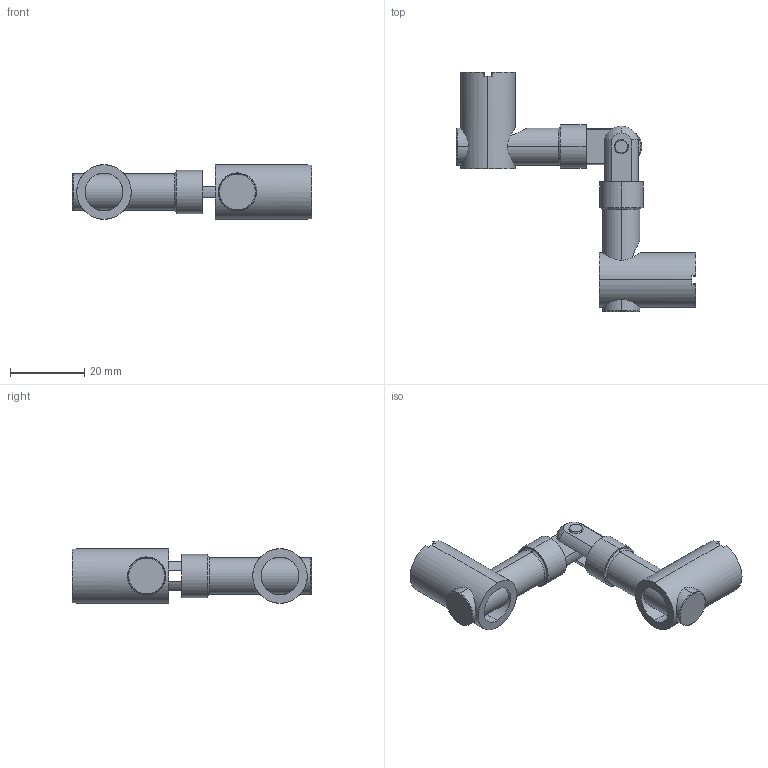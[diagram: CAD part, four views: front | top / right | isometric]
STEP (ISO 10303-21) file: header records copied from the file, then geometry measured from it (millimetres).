
FILE_DESCRIPTION (( 'STEP AP214' ), '1' );
FILE_NAME ('SNSD.30.50.16 Áûñòðîçàæèìíîé êîííåêòîð 85-180 ãðàäóñîâ, ïàç 10(Ñ17).STEP', '2014-11-19T08:45:18', ( 'XTreme.ws' ), ( 'XTreme.ws' ), 'SwSTEP 2.0', 'SolidWorks 2014', '' );
FILE_SCHEMA (( 'AUTOMOTIVE_DESIGN' ));
Length unit declared in the file: millimetre
Products named in the file (5): SNSD.30.50.31 ﾂ竟ﾑ16C17_00; SNSD.30.50.30 Ñòàêàí_Ñ16C17_00; SNSD.30.50.29 ﾏ琿褻_ﾑ16C17_00; SNSD.30.50.28 ﾏ琿褻_ﾑ16C17_00; SNSD.30.50.16 Áûñòðîçàæèìíîé êîííåêòîð 85-180 ãðàäóñîâ, ïàç 10(Ñ17)
Assembly tree (6 placements, depth 2):
  SNSD.30.50.16 Áûñòðîçàæèìíîé êîííåêòîð 85-180 ãðàäóñîâ, ïàç 10(Ñ17)
    SNSD.30.50.28 ﾏ琿褻_ﾑ16C17_00
    SNSD.30.50.29 ﾏ琿褻_ﾑ16C17_00
    SNSD.30.50.30 Ñòàêàí_Ñ16C17_00  x2
    SNSD.30.50.31 ﾂ竟ﾑ16C17_00  x2
Bounding box: 64.5 x 64.5 x 14.7 mm (x, y, z)
Volume: 12040 mm3; surface area: 9289.5 mm2
Topology: 6 solids, 6 shells, 140 faces, 342 edges, 223 vertices
Faces by surface type: plane 72, cylinder 38, torus 12, cone 12, sphere 6
Entity records: 3660 total; most frequent: CARTESIAN_POINT 1060, DIRECTION 534, ORIENTED_EDGE 464, EDGE_CURVE 232, AXIS2_PLACEMENT_3D 219, VERTEX_POINT 151, EDGE_LOOP 117, CIRCLE 112
